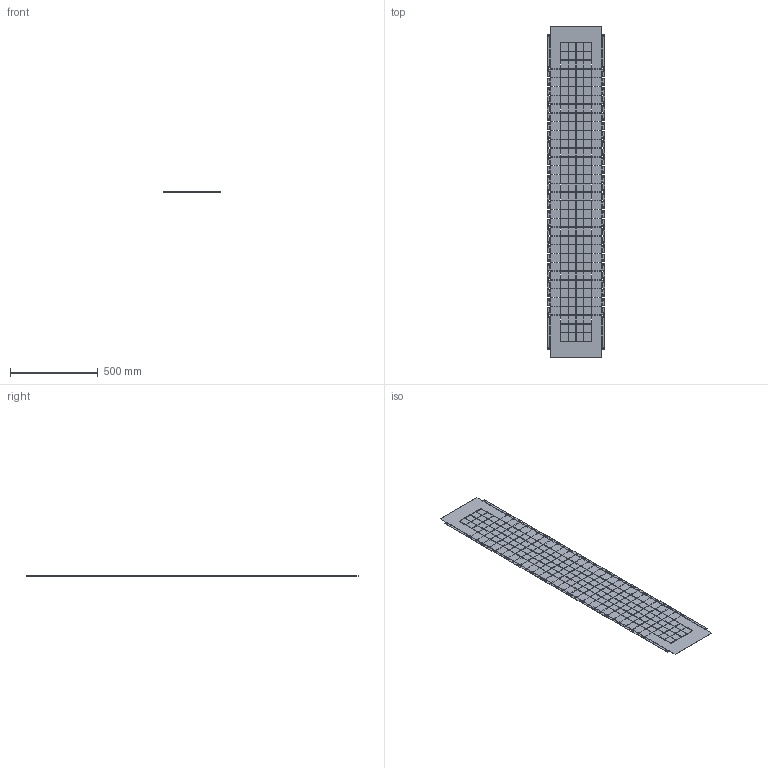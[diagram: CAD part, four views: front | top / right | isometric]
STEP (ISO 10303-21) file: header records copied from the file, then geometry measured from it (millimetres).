
FILE_DESCRIPTION (( 'STEP AP203' ), '1' );
FILE_NAME ('MA1.800.060420.03.01 Ïàíåëü âåðòèêàëüíàÿ äëÿ ñåêöèîíèðîâàíèÿ Ã400 Â2000 ìì EKF.STEP', '2024-12-02T14:03:19', ( '' ), ( '' ), 'SwSTEP 2.0', 'SolidWorks 2021', '' );
FILE_SCHEMA (( 'CONFIG_CONTROL_DESIGN' ));
Products named in the file (1): MA1.800.060420.03.01 Ïàíåëü âåðòèêàëüíàÿ äëÿ ñåêöèîíèðîâàíèÿ Ã400 Â2000 ìì EKF
Bounding box: 326.6 x 1888 x 1 mm (x, y, z)
Volume: 567672.2 mm3; surface area: 1180910.9 mm2
Topology: 1 solids, 1 shells, 2510 faces, 7524 edges, 5016 vertices
Faces by surface type: plane 2382, cylinder 128
Entity records: 85385 total; most frequent: CARTESIAN_POINT 15051, ORIENTED_EDGE 15048, DIRECTION 12802, EDGE_CURVE 7524, LINE 7268, VECTOR 7268, VERTEX_POINT 5016, EDGE_LOOP 3642
